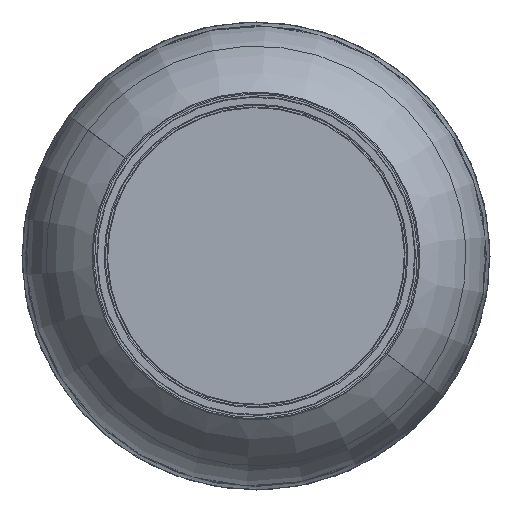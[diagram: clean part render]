
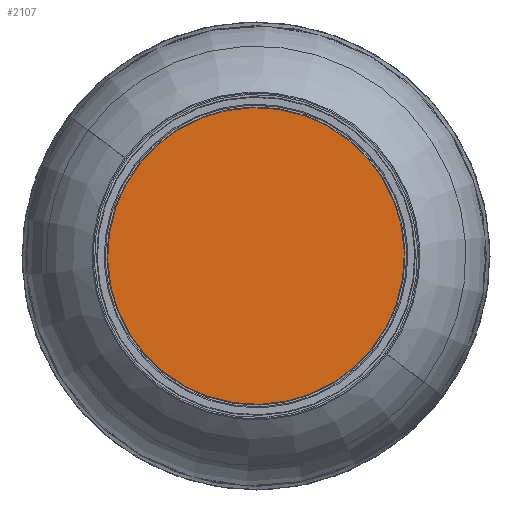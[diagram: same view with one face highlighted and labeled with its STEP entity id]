
A CAD part, front view. The second image highlights one B-rep face of the part: STEP entity #2107.
In plain terms, the highlighted planar face has unit normal (0, -1, 0).
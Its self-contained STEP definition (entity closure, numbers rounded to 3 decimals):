
#43 = CIRCLE ( 'NONE', #2476, 42.8 ) ;
#134 = EDGE_CURVE ( 'NONE', #1781, #2563, #43, .T. ) ;
#235 = DIRECTION ( 'NONE',  ( 0., 0., -1. ) ) ;
#268 = DIRECTION ( 'NONE',  ( 0., -1., 0. ) ) ;
#484 = DIRECTION ( 'NONE',  ( 0., 0., -1. ) ) ;
#992 = DIRECTION ( 'NONE',  ( 0., -1., 0. ) ) ;
#1056 = DIRECTION ( 'NONE',  ( 0., 0., -1. ) ) ;
#1653 = CARTESIAN_POINT ( 'NONE',  ( 0., -1.5, 0. ) ) ;
#1781 = VERTEX_POINT ( 'NONE', #2689 ) ;
#2104 = CIRCLE ( 'NONE', #6640, 42.8 ) ;
#2107 = ADVANCED_FACE ( 'NONE', ( #5276 ), #4749, .T. ) ;
#2320 = CARTESIAN_POINT ( 'NONE',  ( 0., -1.5, 0. ) ) ;
#2476 = AXIS2_PLACEMENT_3D ( 'NONE', #3644, #992, #484 ) ;
#2563 = VERTEX_POINT ( 'NONE', #5310 ) ;
#2689 = CARTESIAN_POINT ( 'NONE',  ( 0., -1.5, 42.8 ) ) ;
#2763 = ORIENTED_EDGE ( 'NONE', *, *, #4319, .T. ) ;
#2784 = ORIENTED_EDGE ( 'NONE', *, *, #134, .T. ) ;
#3644 = CARTESIAN_POINT ( 'NONE',  ( 0., -1.5, 0. ) ) ;
#4319 = EDGE_CURVE ( 'NONE', #2563, #1781, #2104, .T. ) ;
#4749 = PLANE ( 'NONE',  #5786 ) ;
#4953 = DIRECTION ( 'NONE',  ( 0., -1., 0. ) ) ;
#5276 = FACE_OUTER_BOUND ( 'NONE', #5300, .T. ) ;
#5300 = EDGE_LOOP ( 'NONE', ( #2784, #2763 ) ) ;
#5310 = CARTESIAN_POINT ( 'NONE',  ( 0., -1.5, -42.8 ) ) ;
#5786 = AXIS2_PLACEMENT_3D ( 'NONE', #1653, #4953, #1056 ) ;
#6640 = AXIS2_PLACEMENT_3D ( 'NONE', #2320, #268, #235 ) ;
